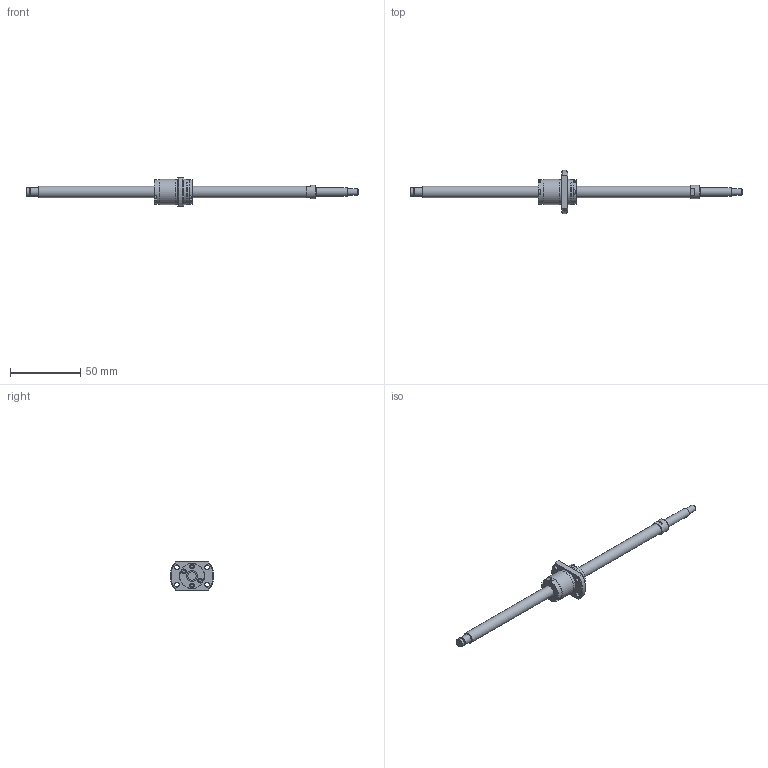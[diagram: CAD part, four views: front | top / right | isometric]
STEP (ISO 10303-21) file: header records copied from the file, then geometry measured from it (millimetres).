
FILE_DESCRIPTION(/* description */ ('STEP AP214'),/* implementation_level */ '2;1');
FILE_NAME(/* name */ 'SRT0812-187R237C7B0X(82.5Processing)',/* time_stamp */ '2026-08-04T20:05:26+02:00',/* author */ ('License CC BY-ND 4.0'),/* organization */ ('CADENAS'),/* preprocessor_version */ 'ST-DEVELOPER v20',/* originating_system */ 'PARTsolutions',/* authorisation */ ' ');
FILE_SCHEMA (('AUTOMOTIVE_DESIGN {1 0 10303 214 3 1 1}'));
Length unit declared in the file: millimetre
Products named in the file (3): SRT0812-187R237C7B0X(82.5Processing); SRT0812-187R270BCt7Processing49Shaft; SRT0812Nut
Assembly tree (2 placements, depth 2):
  SRT0812-187R237C7B0X(82.5Processing)
    SRT0812-187R270BCt7Processing49Shaft
    SRT0812Nut
Bounding box: 237 x 30.91 x 20 mm (x, y, z)
Volume: 17502.3 mm3; surface area: 9535.2 mm2
Topology: 2 solids, 2 shells, 156 faces, 367 edges, 241 vertices
Faces by surface type: plane 106, cylinder 39, cone 10, torus 1
Full cylindrical faces by diameter (mm): 3 x8, 3.4 x4, 4.5 x1, 5.7 x1, 6 x3, 8 x2, 9.5 x1, 17.5 x1, 17.7 x2, 18 x2
Entity records: 4387 total; most frequent: CARTESIAN_POINT 755, DIRECTION 742, ORIENTED_EDGE 666, EDGE_CURVE 333, AXIS2_PLACEMENT_3D 258, VERTEX_POINT 239, LINE 226, VECTOR 226
